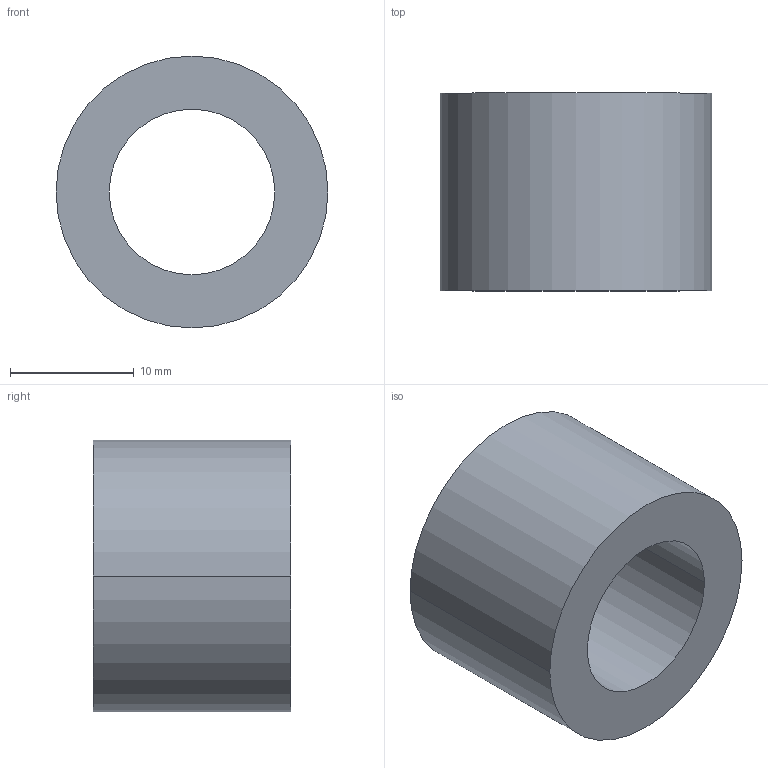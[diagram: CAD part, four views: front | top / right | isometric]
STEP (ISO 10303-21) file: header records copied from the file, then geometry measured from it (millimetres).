
FILE_DESCRIPTION (( 'STEP AP203' ), '1' );
FILE_NAME ('30800.WPP22F13.4.step', '2019-01-23T22:41:27', ( '' ), ( '' ), 'SwSTEP 2.0', 'SolidWorks 2017', '' );
FILE_SCHEMA (( 'CONFIG_CONTROL_DESIGN' ));
Length unit declared in the file: millimetre
Products named in the file (1): 30800.WPP22F13.4
Bounding box: 22 x 16 x 22 mm (x, y, z)
Volume: 3787.2 mm3; surface area: 2223.3 mm2
Topology: 1 solids, 1 shells, 8 faces, 16 edges, 10 vertices
Faces by surface type: cylinder 4, torus 2, plane 2
Entity records: 297 total; most frequent: DIRECTION 46, CARTESIAN_POINT 35, ORIENTED_EDGE 32, AXIS2_PLACEMENT_3D 21, EDGE_CURVE 16, CIRCLE 12, VERTEX_POINT 10, EDGE_LOOP 10
